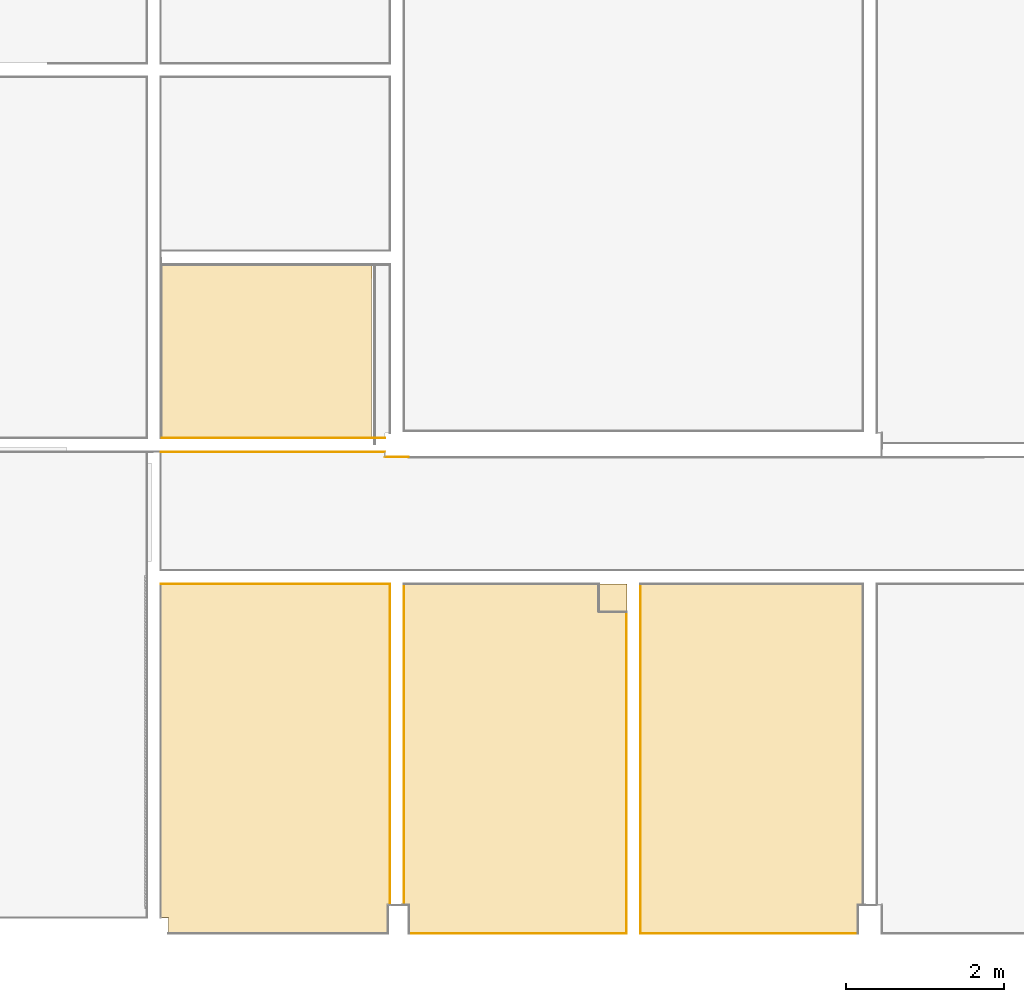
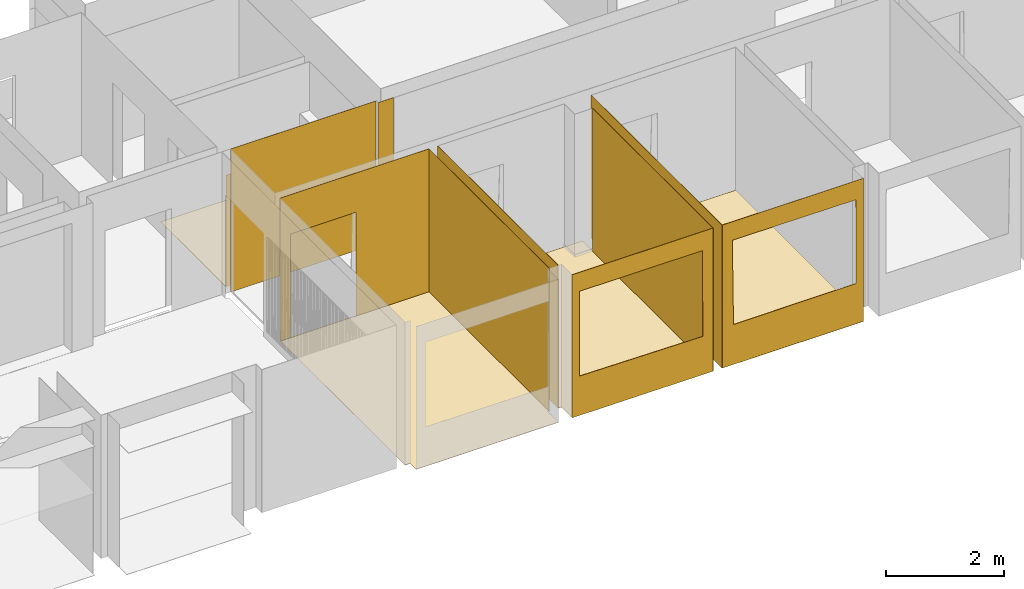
# One storey, part 7 of 33: 14 coverings, 3 openings.
"""IFC2X3 building model written with IfcOpenShell, lengths in millimetres."""

from ifc_helpers import new_model, entity, si_unit, converted_unit, derived_unit, money_unit, direction, frame, origin_with_axes, place, context, subcontext, project, spatial, polyline, outline, extrude, material, type_object, element, save


model = new_model("IFC2X3")

# Units and contexts
model_context = context("Model", 3, precision=0.01, world=origin_with_axes(), true_north=direction((0.0, 1.0)))
body_context = subcontext(model_context, "Body", "Model", "MODEL_VIEW")
ifc_project = project(units=[si_unit("LENGTHUNIT", "METRE", prefix="MILLI"), si_unit("AREAUNIT", "SQUARE_METRE"), si_unit("VOLUMEUNIT", "CUBIC_METRE"), converted_unit("PLANEANGLEUNIT", "DEGREE", entity("IfcPlaneAngleMeasure", 0.0174532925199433), si_unit("PLANEANGLEUNIT", "RADIAN"), dimensions=[0, 0, 0, 0, 0, 0, 0]), money_unit("EUR"), converted_unit("TIMEUNIT", "Year", entity("IfcTimeMeasure", 31556926.0), si_unit("TIMEUNIT", "SECOND"), dimensions=[0, 0, 1, 0, 0, 0, 0]), si_unit("MASSUNIT", "GRAM", prefix="KILO"), si_unit("THERMODYNAMICTEMPERATUREUNIT", "DEGREE_CELSIUS"), si_unit("LUMINOUSINTENSITYUNIT", "LUMEN"), si_unit("ENERGYUNIT", "JOULE", prefix="MEGA"), derived_unit("THERMALCONDUCTANCEUNIT", [(si_unit("POWERUNIT", "WATT"), 1), (si_unit("LENGTHUNIT", "METRE"), -1), (si_unit("THERMODYNAMICTEMPERATUREUNIT", "KELVIN"), -1)]), derived_unit("SPECIFICHEATCAPACITYUNIT", [(si_unit("ENERGYUNIT", "JOULE"), 1), (si_unit("MASSUNIT", "GRAM", prefix="KILO"), -1), (si_unit("THERMODYNAMICTEMPERATUREUNIT", "KELVIN"), -1)]), derived_unit("MASSDENSITYUNIT", [(si_unit("MASSUNIT", "GRAM", prefix="KILO"), 1), (si_unit("VOLUMEUNIT", "CUBIC_METRE"), -1)])], contexts=[model_context])

# Site, building, storey
site_placement = place(None, origin_with_axes())
site = spatial("IfcSite", under=ifc_project, at=site_placement, Name="Paldiski mnt 245/1, Tallinn, Harjumaa", CompositionType="COMPLEX")
building_placement = place(site_placement, origin_with_axes())
building = spatial("IfcBuilding", under=site, at=building_placement, Name="RKAS Hoone üldnimetus (kasutust iseloomustav) -> IFC Project Manager -> SOLIBRI", CompositionType="ELEMENT")
storey_placement = place(building_placement, origin_with_axes())
storey = spatial("IfcBuildingStorey", under=building, at=storey_placement, Name="Esimene korrus", CompositionType="ELEMENT", Elevation=0.0)

# Coverings
ifc_material_1 = material(Name="SA- PM-7 plaat 15x15")
covering_type_1 = type_object("IfcCoveringType", Name="SA- PM-7 plaat 15x15 8", PredefinedType="FLOORING")
covering_1_placement = place(storey_placement, frame((-38425.88975826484, -6241.023763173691, 0.0), z_axis=(0.0, 0.0, 1.0), x_axis=(1.0, 0.0, 0.0)))
element("IfcCovering", 1, at=covering_1_placement, inside=storey, type_object=covering_type_1, material=ifc_material_1, Name="PM-7", PredefinedType="FLOORING", context=body_context, shape_type="SweptSolid", body=[
    extrude(outline(polyline([(0.0, 0.0), (2664.999574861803, -1.747858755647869), (2666.442460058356, 2198.251668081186), (1.442893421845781, 2199.999526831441), (0.0, 0.0)])), origin_with_axes(), (0.0, 0.0, 1.0), 8.0),
])
ifc_material_2 = material(Name="SA- Värv SM10(tumehall)")
covering_type_2 = type_object("IfcCoveringType", Name="SA- Värv SM10(tumehall) 5", PredefinedType="CLADDING")
covering_2_placement = place(storey_placement, frame((-35525.00000000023, -12150.08408706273, 0.0), z_axis=(0.0, 0.0, 1.0), x_axis=(0.0, 1.0, 0.0)))
element("IfcCovering", 2, at=covering_2_placement, inside=storey, type_object=covering_type_2, material=ifc_material_2, Name="SM10", PredefinedType="CLADDING", context=body_context, shape_type="SweptSolid", body=[
    extrude(outline(polyline([(0.0, 0.0), (4065.084087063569, 0.0), (4065.084087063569, 5.000000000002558), (5.000000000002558, 5.000000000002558), (0.0, 0.0)])), origin_with_axes(), (0.0, 0.0, 1.0), 2950.0),
])
ifc_material_3 = material(Name="SA- Värv SM4(Niiskuskindel värv)")
covering_type_3 = type_object("IfcCoveringType", Name="SA- Värv SM4(Niiskuskindel värv) 5", PredefinedType="CLADDING")
covering_3_placement = place(storey_placement, frame((-35590.00003434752, -6242.883702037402, 0.0), z_axis=(0.0, 0.0, 1.0), x_axis=(-0.9999997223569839, -0.0007451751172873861, 0.0)))
element("IfcCovering", 3, at=covering_3_placement, inside=storey, type_object=covering_type_3, material=ifc_material_3, Name="SM4", PredefinedType="CLADDING", context=body_context, shape_type="SweptSolid", body=[
    extrude(outline(polyline([(0.0, -4.999999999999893), (2827.997114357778, -4.999999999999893), (2828.000840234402, 0.0), (0.0, 0.0), (0.0, -4.999999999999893)])), origin_with_axes(), (0.0, 0.0, 1.0), 2300.0),
])

# Covering, opening
ifc_material_4 = material(Name="SA- Värv SM5(valge)")
covering_type_4 = type_object("IfcCoveringType", Name="SA- Värv SM5(valge) 5", PredefinedType="CLADDING")
covering_4_placement = place(storey_placement, frame((-35525.00000000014, -8084.999999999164, 0.0), z_axis=(0.0, 0.0, 1.0), x_axis=(-1.0, 0.0, 0.0)))
covering_4 = element("IfcCovering", 4, at=covering_4_placement, inside=storey, type_object=covering_type_4, material=ifc_material_4, Name="SM5", PredefinedType="CLADDING", context=body_context, shape_type="SweptSolid", body=[
    extrude(outline(polyline([(0.0, 0.0), (2905.000089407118, 0.0), (2905.000089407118, 5.000000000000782), (0.0, 5.000000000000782), (0.0, 0.0)])), origin_with_axes(), (0.0, 0.0, 1.0), 2950.0),
])
opening_1_placement = place(covering_4_placement, frame((-35525.00000000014, -8084.999999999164, 0.0), z_axis=(0.0, 0.0, 1.0), x_axis=(-1.0, 0.0, 0.0)))
element("IfcOpeningElement", 5, at=opening_1_placement, cuts=covering_4, Name="AVA", ObjectType="OPENING", context=body_context, shape_type="SweptSolid", body=[
    extrude(outline(polyline([(-638.2716416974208, -1069.466746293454), (637.6207558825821, -1069.46674629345), (638.2716416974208, 1067.824389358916), (-637.2592202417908, 1069.466746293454), (-638.2716416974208, -1069.466746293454)])), frame((-37585.72623326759, -8079.999999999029, 1072.466746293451), z_axis=(0.0, 1.0, 0.0), x_axis=(-1.0, 0.0, 0.0)), (0.0, 0.0, -1.0), 15.00000000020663),
])

covering_5_placement = place(storey_placement, frame((-35290.00000000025, -12510.08408706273, 0.0), z_axis=(0.0, 0.0, 1.0), x_axis=(0.999999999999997, -7.768311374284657e-08, 0.0)))
covering_5 = element("IfcCovering", 6, at=covering_5_placement, inside=storey, type_object=covering_type_4, material=ifc_material_4, Name="SM5", PredefinedType="CLADDING", context=body_context, shape_type="SweptSolid", body=[
    extrude(outline(polyline([(0.0, 0.0), (2754.999999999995, 0.0), (2754.999999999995, 5.000000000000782), (0.0, 5.000000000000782), (0.0, 0.0)])), origin_with_axes(), (0.0, 0.0, 1.0), 2950.0),
])
opening_2_placement = place(covering_5_placement, frame((35289.99902817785, 12510.08682849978, 0.0), z_axis=(0.0, 0.0, 1.0), x_axis=(0.999999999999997, 7.768311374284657e-08, 0.0)))
element("IfcOpeningElement", 7, at=opening_2_placement, cuts=covering_5, Name="AVA", ObjectType="OPENING", context=body_context, shape_type="SweptSolid", body=[
    extrude(outline(polyline([(-1201.163143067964, -862.6706888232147), (1204.230459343, -886.2828351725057), (1197.572792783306, 886.2828351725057), (-1204.230459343, 886.2828351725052), (-1201.163143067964, -862.6706888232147)])), frame((-33943.58528324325, -12515.08451509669, 1673.717164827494), z_axis=(-7.768311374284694e-08, -0.999999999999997, 0.0), x_axis=(0.999999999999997, -7.768311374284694e-08, 0.0)), (0.0, 0.0, -1.0), 15.0006420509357),
])

# Coverings
covering_6_placement = place(storey_placement, frame((-32535.00000000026, -12510.08430107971, 0.0), z_axis=(0.0, 0.0, 1.0), x_axis=(0.0, 1.0, 0.0)))
element("IfcCovering", 8, at=covering_6_placement, inside=storey, type_object=covering_type_4, material=ifc_material_4, Name="SM5", PredefinedType="CLADDING", context=body_context, shape_type="SweptSolid", body=[
    extrude(outline(polyline([(0.0, 0.0), (4075.005807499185, 0.0), (4070.006928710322, 5.000000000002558), (0.0, 5.000000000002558), (0.0, 0.0)])), origin_with_axes(), (0.0, 0.0, 1.0), 2950.0),
])
covering_7_placement = place(storey_placement, frame((-35355.00000000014, -8084.99999999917, 0.0), z_axis=(0.0, 0.0, 1.0), x_axis=(0.0, -1.0, 0.0)))
element("IfcCovering", 9, at=covering_7_placement, inside=storey, type_object=covering_type_4, material=ifc_material_4, Name="SM5", PredefinedType="CLADDING", context=body_context, shape_type="SweptSolid", body=[
    extrude(outline(polyline([(0.0, 0.0), (4060.084087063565, 0.0), (4060.084087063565, 5.000000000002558), (0.0, 5.000000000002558), (0.0, 0.0)])), origin_with_axes(), (0.0, 0.0, 1.0), 2950.0),
])
covering_8_placement = place(storey_placement, frame((-32365.00000000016, -8084.999999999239, 0.0), z_axis=(0.0, 0.0, 1.0), x_axis=(0.0, -1.0, 0.0)))
element("IfcCovering", 10, at=covering_8_placement, inside=storey, type_object=covering_type_4, material=ifc_material_4, Name="SM5", PredefinedType="CLADDING", context=body_context, shape_type="SweptSolid", body=[
    extrude(outline(polyline([(0.0, 0.0), (4425.084301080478, 0.0), (4425.084301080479, 5.000000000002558), (0.0, 5.000000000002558), (0.0, 0.0)])), origin_with_axes(), (0.0, 0.0, 1.0), 2950.0),
])

# Covering, opening
covering_9_placement = place(storey_placement, frame((-32365.00000000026, -12510.08430107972, 0.0), z_axis=(0.0, 0.0, 1.0), x_axis=(0.999999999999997, 7.768306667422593e-08, 0.0)))
covering_9 = element("IfcCovering", 11, at=covering_9_placement, inside=storey, type_object=covering_type_4, material=ifc_material_4, Name="SM5", PredefinedType="CLADDING", context=body_context, shape_type="SweptSolid", body=[
    extrude(outline(polyline([(0.0, 0.0), (2755.000000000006, 0.0), (2755.000000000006, 5.000000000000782), (0.0, 5.000000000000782), (0.0, 0.0)])), origin_with_axes(), (0.0, 0.0, 1.0), 2950.0),
])
opening_3_placement = place(covering_9_placement, frame((32365.00097182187, 12510.08178686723, 0.0), z_axis=(0.0, 0.0, 1.0), x_axis=(0.999999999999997, -7.768306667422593e-08, 0.0)))
element("IfcOpeningElement", 12, at=opening_3_placement, cuts=covering_9, Name="AVA", ObjectType="OPENING", context=body_context, shape_type="SweptSolid", body=[
    extrude(outline(polyline([(-1183.849743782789, -873.9799106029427), (1206.871673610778, -862.5606113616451), (1202.082862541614, 864.359314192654), (-1206.871673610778, 873.9799106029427), (-1183.849743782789, -873.9799106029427)])), frame((-30958.32324670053, -12515.08451509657, 1695.640685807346), z_axis=(7.768306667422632e-08, -0.999999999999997, 0.0), x_axis=(0.999999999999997, 7.768306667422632e-08, 0.0)), (0.0, 0.0, -1.0), 15.00064205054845),
])

# Coverings
ifc_material_5 = material(Name="SA- Värv SM7(beez)")
covering_type_5 = type_object("IfcCoveringType", Name="SA- Värv SM7(beez) 5", PredefinedType="CLADDING")
covering_10_placement = place(storey_placement, frame((-35590.00000000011, -6414.999999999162, 0.0), z_axis=(0.0, 0.0, 1.0), x_axis=(-1.0, 0.0, 0.0)))
element("IfcCovering", 13, at=covering_10_placement, inside=storey, type_object=covering_type_5, material=ifc_material_5, Name="SM7", PredefinedType="CLADDING", context=body_context, shape_type="SweptSolid", body=[
    extrude(outline(polyline([(0.0, 0.0), (2840.000089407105, 0.0), (2835.000089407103, 4.999999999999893), (5.000000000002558, 4.999999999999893), (0.0, 0.0)])), origin_with_axes(), (0.0, 0.0, 1.0), 2950.0),
])
covering_11_placement = place(storey_placement, frame((-35289.99998856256, -6480.000029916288, 0.0), z_axis=(0.0, 0.0, 1.0), x_axis=(-0.999999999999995, 9.972374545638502e-08, 0.0)))
element("IfcCovering", 14, at=covering_11_placement, inside=storey, type_object=covering_type_5, material=ifc_material_5, Name="SM7", PredefinedType="CLADDING", context=body_context, shape_type="SweptSolid", body=[
    extrude(outline(polyline([(0.0, 0.0), (300.000011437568, 0.0), (305.0000109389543, 4.999999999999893), (-2.493081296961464e-07, 4.999999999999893), (0.0, 0.0)])), origin_with_axes(), (0.0, 0.0, 1.0), 2950.0),
])
ifc_material_6 = material(Name="SA- PM-6 vinüül")
covering_type_6 = type_object("IfcCoveringType", Name="SA- PM-6 vinüül 3", PredefinedType="FLOORING")
covering_12_placement = place(storey_placement, frame((-38329.99866978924, -12506.17210615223, 0.0), z_axis=(0.0, 0.0, 1.0), x_axis=(1.0, 0.0, 0.0)))
element("IfcCovering", 15, at=covering_12_placement, inside=storey, type_object=covering_type_6, material=ifc_material_6, Name="PM-6", PredefinedType="FLOORING", context=body_context, shape_type="SweptSolid", body=[
    extrude(outline(polyline([(0.0, 0.0), (2779.999368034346, -1.823282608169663), (2780.235458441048, 358.1766361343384), (2805.235493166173, 358.1602934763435), (2807.901599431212, 4423.243474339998), (-97.09785743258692, 4425.148765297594), (-99.86895422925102, 200.0655826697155), (0.131157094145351, 199.9999362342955), (0.0, 0.0)])), origin_with_axes(), (0.0, 0.0, 1.0), 3.0),
])
covering_13_placement = place(storey_placement, frame((-29610.00056448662, -12511.89116076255, 0.0), z_axis=(0.0, 0.0, 1.0), x_axis=(1.0, 0.0, 0.0)))
element("IfcCovering", 16, at=covering_13_placement, inside=storey, type_object=covering_type_6, material=ifc_material_6, Name="PM-6", PredefinedType="FLOORING", context=body_context, shape_type="SweptSolid", body=[
    extrude(outline(polyline([(0.0, 0.0), (0.2361084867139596, 359.9999225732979), (65.00056448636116, 361.8070736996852), (67.90224738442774, 4425.040442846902), (-2752.097183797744, 4426.890033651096), (-2754.999435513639, 1.806859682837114), (0.0, 0.0)])), origin_with_axes(), (0.0, 0.0, 1.0), 3.0),
])
covering_14_placement = place(storey_placement, frame((-32534.99989652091, -12509.97280734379, 0.0), z_axis=(0.0, 0.0, 1.0), x_axis=(1.0, 0.0, 0.0)))
element("IfcCovering", 17, at=covering_14_placement, inside=storey, type_object=covering_type_6, material=ifc_material_6, Name="PM-6", PredefinedType="FLOORING", context=body_context, shape_type="SweptSolid", body=[
    extrude(outline(polyline([(0.0, 0.0), (2.90218187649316, 4425.08313855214), (-2817.097226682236, 4426.932696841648), (-2819.763356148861, 361.8494575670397), (-2754.763337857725, 361.8068363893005), (-2754.999431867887, 1.806882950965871), (0.0, 0.0)])), origin_with_axes(), (0.0, 0.0, 1.0), 3.0),
])

save(model, "model.ifc")
